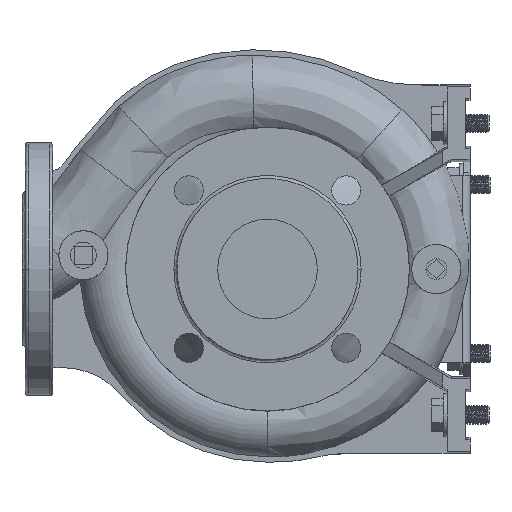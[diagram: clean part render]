
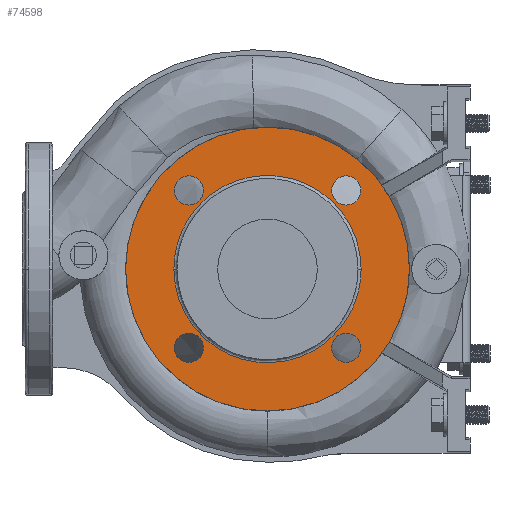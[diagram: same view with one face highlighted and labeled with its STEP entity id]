
A CAD part, left-side view. The second image highlights one B-rep face of the part: STEP entity #74598.
In plain terms, the highlighted planar face has unit normal (-1, 0, 0).
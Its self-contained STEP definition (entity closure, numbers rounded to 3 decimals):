
#2395 = ORIENTED_EDGE ( 'NONE', *, *, #179058, .T. ) ;
#4786 = EDGE_LOOP ( 'NONE', ( #146667, #135696 ) ) ;
#4798 = VERTEX_POINT ( 'NONE', #65460 ) ;
#9936 = CIRCLE ( 'NONE', #42751, 9.5 ) ;
#10796 = DIRECTION ( 'NONE',  ( 0., 0., 1. ) ) ;
#11663 = DIRECTION ( 'NONE',  ( 0., 0., 1. ) ) ;
#12275 = DIRECTION ( 'NONE',  ( -1., 0., 0. ) ) ;
#14073 = DIRECTION ( 'NONE',  ( -1., 0., 0. ) ) ;
#15294 = ORIENTED_EDGE ( 'NONE', *, *, #162620, .F. ) ;
#16295 = ORIENTED_EDGE ( 'NONE', *, *, #42000, .F. ) ;
#16588 = DIRECTION ( 'NONE',  ( 0., 0., 1. ) ) ;
#17393 = EDGE_CURVE ( 'NONE', #96581, #84979, #168318, .T. ) ;
#17401 = ORIENTED_EDGE ( 'NONE', *, *, #35307, .F. ) ;
#19314 = CARTESIAN_POINT ( 'NONE',  ( -98., -93.61, -93.61 ) ) ;
#19327 = CARTESIAN_POINT ( 'NONE',  ( -98., 51.265, -51.265 ) ) ;
#19764 = CARTESIAN_POINT ( 'NONE',  ( -98., 51.265, 51.265 ) ) ;
#20006 = EDGE_LOOP ( 'NONE', ( #15294, #16295 ) ) ;
#28318 = AXIS2_PLACEMENT_3D ( 'NONE', #100035, #12275, #86049 ) ;
#30375 = ORIENTED_EDGE ( 'NONE', *, *, #78680, .T. ) ;
#31909 = DIRECTION ( 'NONE',  ( -1., 0., 0. ) ) ;
#32441 = DIRECTION ( 'NONE',  ( 1., 0., 0. ) ) ;
#32940 = DIRECTION ( 'NONE',  ( 0., 0., 1. ) ) ;
#33155 = CARTESIAN_POINT ( 'NONE',  ( -98., 61., 0. ) ) ;
#33329 = CARTESIAN_POINT ( 'NONE',  ( -98., -61., 0. ) ) ;
#35307 = EDGE_CURVE ( 'NONE', #84979, #96581, #96799, .T. ) ;
#35580 = ORIENTED_EDGE ( 'NONE', *, *, #118234, .F. ) ;
#40552 = EDGE_CURVE ( 'NONE', #178409, #110517, #172217, .T. ) ;
#42000 = EDGE_CURVE ( 'NONE', #4798, #63302, #43496, .T. ) ;
#42751 = AXIS2_PLACEMENT_3D ( 'NONE', #52973, #181861, #123930 ) ;
#43496 = CIRCLE ( 'NONE', #91585, 9.5 ) ;
#46377 = CARTESIAN_POINT ( 'NONE',  ( -98., -61., -122. ) ) ;
#49103 = CIRCLE ( 'NONE', #147602, 92.5 ) ;
#52951 = EDGE_LOOP ( 'NONE', ( #148552, #35580 ) ) ;
#52973 = CARTESIAN_POINT ( 'NONE',  ( -98., 51.265, -51.265 ) ) ;
#53375 = CARTESIAN_POINT ( 'NONE',  ( -98., -51.265, -41.765 ) ) ;
#55803 = AXIS2_PLACEMENT_3D ( 'NONE', #135601, #103921, #63728 ) ;
#57292 = CARTESIAN_POINT ( 'NONE',  ( -98., -61., 0. ) ) ;
#58270 = AXIS2_PLACEMENT_3D ( 'NONE', #19314, #32441, #89392 ) ;
#60380 = CARTESIAN_POINT ( 'NONE',  ( -98., 61., -122. ) ) ;
#61279 = ORIENTED_EDGE ( 'NONE', *, *, #17393, .F. ) ;
#63302 = VERTEX_POINT ( 'NONE', #53375 ) ;
#63728 = DIRECTION ( 'NONE',  ( 0., 0., 1. ) ) ;
#64369 = EDGE_CURVE ( 'NONE', #110517, #178409, #154746, .T. ) ;
#65460 = CARTESIAN_POINT ( 'NONE',  ( -98., -51.265, -60.765 ) ) ;
#70948 = EDGE_LOOP ( 'NONE', ( #2395, #30375 ) ) ;
#71064 = DIRECTION ( 'NONE',  ( 0., 0., 1. ) ) ;
#73153 = DIRECTION ( 'NONE',  ( -1., 0., 0. ) ) ;
#74598 = ADVANCED_FACE ( 'NONE', ( #148187, #174394, #120147, #147254, #106158, #103401 ), #160390, .F. ) ;
#74748 = VERTEX_POINT ( 'NONE', #169605 ) ;
#76300 = DIRECTION ( 'NONE',  ( -1., 0., 0. ) ) ;
#77653 = DIRECTION ( 'NONE',  ( -1., 0., 0. ) ) ;
#78680 = EDGE_CURVE ( 'NONE', #171994, #144943, #106585, .T. ) ;
#79533 = CARTESIAN_POINT ( 'NONE',  ( -98., 0., 92.5 ) ) ;
#84979 = VERTEX_POINT ( 'NONE', #138331 ) ;
#86049 = DIRECTION ( 'NONE',  ( 0., 0., 1. ) ) ;
#89392 = DIRECTION ( 'NONE',  ( 0., 1., 0. ) ) ;
#89652 = CARTESIAN_POINT ( 'NONE',  ( -98., 51.265, -41.765 ) ) ;
#91585 = AXIS2_PLACEMENT_3D ( 'NONE', #142015, #14073, #71064 ) ;
#93860 = CARTESIAN_POINT ( 'NONE',  ( -98., -51.265, -51.265 ) ) ;
#96540 = CARTESIAN_POINT ( 'NONE',  ( -98., 61., 122. ) ) ;
#96581 = VERTEX_POINT ( 'NONE', #140923 ) ;
#96799 = CIRCLE ( 'NONE', #28318, 9.5 ) ;
#97626 = DIRECTION ( 'NONE',  ( -1., 0., 0. ) ) ;
#98340 = EDGE_LOOP ( 'NONE', ( #17401, #61279 ) ) ;
#100035 = CARTESIAN_POINT ( 'NONE',  ( -98., -51.265, 51.265 ) ) ;
#101445 = AXIS2_PLACEMENT_3D ( 'NONE', #19327, #76300, #16588 ) ;
#103401 = FACE_OUTER_BOUND ( 'NONE', #70948, .T. ) ;
#103921 = DIRECTION ( 'NONE',  ( -1., 0., 0. ) ) ;
#106158 = FACE_BOUND ( 'NONE', #98340, .T. ) ;
#106585 = CIRCLE ( 'NONE', #55803, 92.5 ) ;
#108729 = CIRCLE ( 'NONE', #120572, 9.5 ) ;
#110517 = VERTEX_POINT ( 'NONE', #33329 ) ;
#111623 = CARTESIAN_POINT ( 'NONE',  ( -98., -51.265, 51.265 ) ) ;
#115981 = CIRCLE ( 'NONE', #166794, 9.5 ) ;
#117633 = AXIS2_PLACEMENT_3D ( 'NONE', #111623, #97626, #10796 ) ;
#118197 = VERTEX_POINT ( 'NONE', #130901 ) ;
#118234 = EDGE_CURVE ( 'NONE', #134133, #74748, #158559, .T. ) ;
#120147 = FACE_BOUND ( 'NONE', #4786, .T. ) ;
#120282 = VERTEX_POINT ( 'NONE', #89652 ) ;
#120572 = AXIS2_PLACEMENT_3D ( 'NONE', #93860, #151793, #11663 ) ;
#123930 = DIRECTION ( 'NONE',  ( 0., 0., 1. ) ) ;
#129052 = CARTESIAN_POINT ( 'NONE',  ( -98., 0., -92.5 ) ) ;
#130901 = CARTESIAN_POINT ( 'NONE',  ( -98., 51.265, -60.765 ) ) ;
#131354 = CARTESIAN_POINT ( 'NONE',  ( -98., 61., 0. ) ) ;
#134133 = VERTEX_POINT ( 'NONE', #156652 ) ;
#135601 = CARTESIAN_POINT ( 'NONE',  ( -98., 0., 0. ) ) ;
#135696 = ORIENTED_EDGE ( 'NONE', *, *, #151551, .F. ) ;
#138331 = CARTESIAN_POINT ( 'NONE',  ( -98., -51.265, 60.765 ) ) ;
#140362 = ORIENTED_EDGE ( 'NONE', *, *, #40552, .F. ) ;
#140443 = CARTESIAN_POINT ( 'NONE',  ( -98., 61., 0. ) ) ;
#140923 = CARTESIAN_POINT ( 'NONE',  ( -98., -51.265, 41.765 ) ) ;
#142015 = CARTESIAN_POINT ( 'NONE',  ( -98., -51.265, -51.265 ) ) ;
#143093 = CARTESIAN_POINT ( 'NONE',  ( -98., 51.265, 51.265 ) ) ;
#143817 = EDGE_LOOP ( 'NONE', ( #140362, #177805 ) ) ;
#144943 = VERTEX_POINT ( 'NONE', #79533 ) ;
#145040 = CARTESIAN_POINT ( 'NONE',  ( -98., 0., 0. ) ) ;
#146667 = ORIENTED_EDGE ( 'NONE', *, *, #160966, .F. ) ;
#147254 = FACE_BOUND ( 'NONE', #20006, .T. ) ;
#147602 = AXIS2_PLACEMENT_3D ( 'NONE', #145040, #73153, #32940 ) ;
#148187 = FACE_BOUND ( 'NONE', #143817, .T. ) ;
#148552 = ORIENTED_EDGE ( 'NONE', *, *, #149648, .F. ) ;
#149648 = EDGE_CURVE ( 'NONE', #74748, #134133, #115981, .T. ) ;
#151551 = EDGE_CURVE ( 'NONE', #118197, #120282, #158130, .T. ) ;
#151793 = DIRECTION ( 'NONE',  ( -1., 0., 0. ) ) ;
#154746 =( BOUNDED_CURVE ( )  B_SPLINE_CURVE ( 3, ( #57292, #156314, #96540, #140443 ),
 .UNSPECIFIED., .F., .F. ) 
 B_SPLINE_CURVE_WITH_KNOTS ( ( 4, 4 ),
 ( 0., 1. ),
 .UNSPECIFIED. ) 
 CURVE ( )  GEOMETRIC_REPRESENTATION_ITEM ( )  RATIONAL_B_SPLINE_CURVE ( ( 0.957, 0.319, 0.319, 0.957 ) ) 
 REPRESENTATION_ITEM ( '' )  );
#156314 = CARTESIAN_POINT ( 'NONE',  ( -98., -61., 122. ) ) ;
#156652 = CARTESIAN_POINT ( 'NONE',  ( -98., 51.265, 41.765 ) ) ;
#158130 = CIRCLE ( 'NONE', #101445, 9.5 ) ;
#158559 = CIRCLE ( 'NONE', #179100, 9.5 ) ;
#158928 = DIRECTION ( 'NONE',  ( 0., 0., 1. ) ) ;
#160390 = PLANE ( 'NONE',  #58270 ) ;
#160966 = EDGE_CURVE ( 'NONE', #120282, #118197, #9936, .T. ) ;
#161246 = CARTESIAN_POINT ( 'NONE',  ( -98., -61., 0. ) ) ;
#162620 = EDGE_CURVE ( 'NONE', #63302, #4798, #108729, .T. ) ;
#166794 = AXIS2_PLACEMENT_3D ( 'NONE', #19764, #77653, #177606 ) ;
#168318 = CIRCLE ( 'NONE', #117633, 9.5 ) ;
#169605 = CARTESIAN_POINT ( 'NONE',  ( -98., 51.265, 60.765 ) ) ;
#171994 = VERTEX_POINT ( 'NONE', #129052 ) ;
#172217 =( BOUNDED_CURVE ( )  B_SPLINE_CURVE ( 3, ( #131354, #60380, #46377, #161246 ),
 .UNSPECIFIED., .F., .F. ) 
 B_SPLINE_CURVE_WITH_KNOTS ( ( 4, 4 ),
 ( 0., 1. ),
 .UNSPECIFIED. ) 
 CURVE ( )  GEOMETRIC_REPRESENTATION_ITEM ( )  RATIONAL_B_SPLINE_CURVE ( ( 0.957, 0.319, 0.319, 0.957 ) ) 
 REPRESENTATION_ITEM ( '' )  );
#174394 = FACE_BOUND ( 'NONE', #52951, .T. ) ;
#177606 = DIRECTION ( 'NONE',  ( 0., 0., 1. ) ) ;
#177805 = ORIENTED_EDGE ( 'NONE', *, *, #64369, .F. ) ;
#178409 = VERTEX_POINT ( 'NONE', #33155 ) ;
#179058 = EDGE_CURVE ( 'NONE', #144943, #171994, #49103, .T. ) ;
#179100 = AXIS2_PLACEMENT_3D ( 'NONE', #143093, #31909, #158928 ) ;
#181861 = DIRECTION ( 'NONE',  ( -1., 0., 0. ) ) ;
